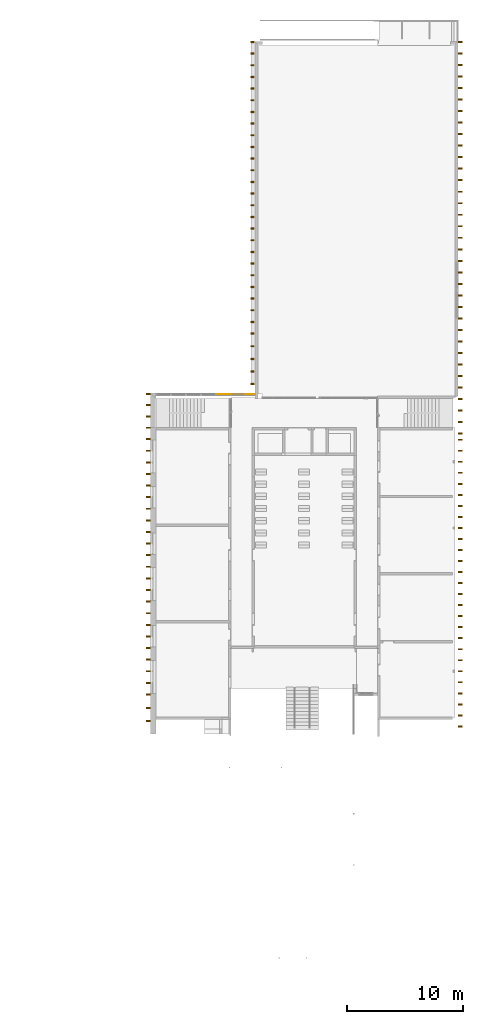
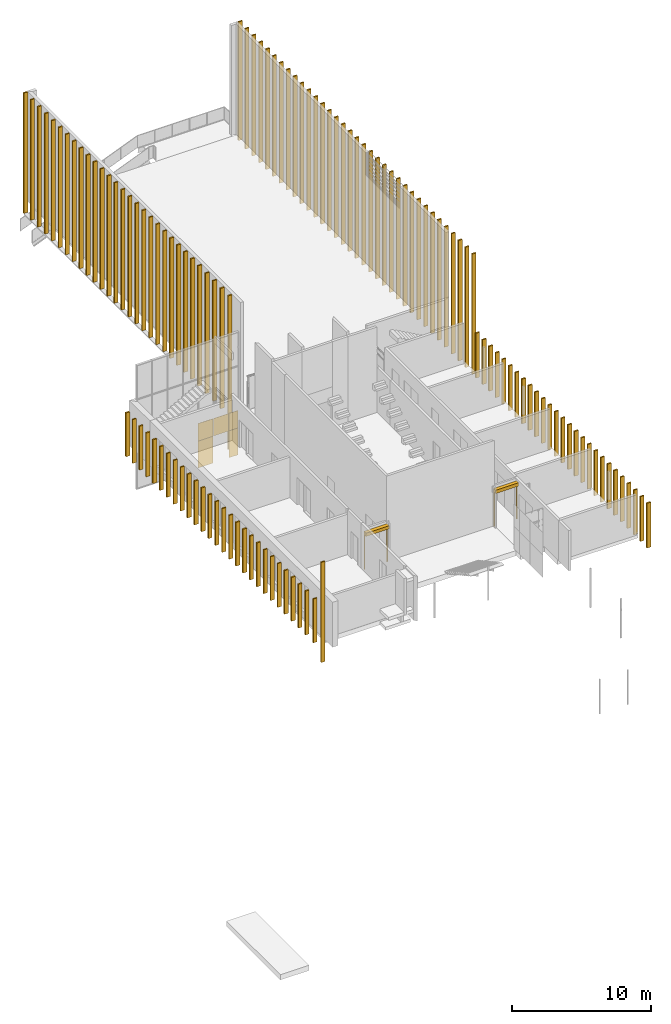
# One storey, part 58 of 62: 121 coverings, 7 doors, 1 element without a shape of its own.
"""IFC2X3 building model written with IfcOpenShell, lengths in millimetres."""

from ifc_helpers import new_model, entity, si_unit, converted_unit, derived_unit, money_unit, direction, frame, origin_with_axes, origin_2d_with_axis, place, context, subcontext, project, spatial, polyline, rectangle, outline, extrude, faceted_brep, source, transform, mapped, material, type_object, element, aggregate, save


model = new_model("IFC2X3")

# Units and contexts
model_context = context("Model", 3, precision=0.01, world=origin_with_axes(), true_north=direction((0.0, 1.0)))
body_context = subcontext(model_context, "Body", "Model", "MODEL_VIEW")
ifc_project = project(units=[si_unit("LENGTHUNIT", "METRE", prefix="MILLI"), si_unit("AREAUNIT", "SQUARE_METRE"), si_unit("VOLUMEUNIT", "CUBIC_METRE"), converted_unit("PLANEANGLEUNIT", "DEGREE", entity("IfcPlaneAngleMeasure", 0.0174532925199), si_unit("PLANEANGLEUNIT", "RADIAN"), dimensions=[0, 0, 0, 0, 0, 0, 0]), si_unit("SOLIDANGLEUNIT", "STERADIAN"), money_unit("EUR"), converted_unit("TIMEUNIT", "Year", entity("IfcTimeMeasure", 31556926.0), si_unit("TIMEUNIT", "SECOND"), dimensions=[0, 0, 1, 0, 0, 0, 0]), si_unit("MASSUNIT", "GRAM", prefix="KILO"), si_unit("THERMODYNAMICTEMPERATUREUNIT", "DEGREE_CELSIUS"), si_unit("LUMINOUSINTENSITYUNIT", "LUMEN"), si_unit("ENERGYUNIT", "JOULE", prefix="MEGA"), derived_unit("THERMALCONDUCTANCEUNIT", [(si_unit("POWERUNIT", "WATT"), 1), (si_unit("LENGTHUNIT", "METRE"), -1), (si_unit("THERMODYNAMICTEMPERATUREUNIT", "KELVIN"), -1)]), derived_unit("SPECIFICHEATCAPACITYUNIT", [(si_unit("ENERGYUNIT", "JOULE"), 1), (si_unit("MASSUNIT", "GRAM", prefix="KILO"), -1), (si_unit("THERMODYNAMICTEMPERATUREUNIT", "KELVIN"), -1)]), derived_unit("MASSDENSITYUNIT", [(si_unit("MASSUNIT", "GRAM", prefix="KILO"), 1), (si_unit("VOLUMEUNIT", "CUBIC_METRE"), -1)])], contexts=[model_context])

# Site, building, storey
site_placement = place(None, origin_with_axes())
site = spatial("IfcSite", under=ifc_project, at=site_placement, Name="Puškini 31, Narva", CompositionType="ELEMENT")
building_placement = place(site_placement, origin_with_axes())
building = spatial("IfcBuilding", under=site, at=building_placement, Name="Narva Riigigümnaasium", CompositionType="ELEMENT")
storey_placement = place(building_placement, frame((0.0, 0.0, 660.0), z_axis=(0.0, 0.0, 1.0), x_axis=(1.0, 0.0, 0.0)))
storey = spatial("IfcBuildingStorey", under=building, at=storey_placement, Name="2.korrus +0.66", CompositionType="ELEMENT", Elevation=660.0)

# Doors
ifc_material_1 = material(Name="ET-05_Teras")
door_style_1 = type_object("IfcDoorStyle", Name="TTK-8", ConstructionType="NOTDEFINED", OperationType="NOTDEFINED", ParameterTakesPrecedence=False, Sizeable=False)
shared_shape = source(origin_with_axes(), body_context, "Body", "Brep", [
    faceted_brep([(1959.99988526, 295.0, 0.0), (1879.99988526, 295.0, 0.0), (1879.99988526, 295.0, 3325.0), (1959.99988526, 295.0, 3325.0), (1959.99988526, 234.8205699, 0.0), (1879.99988526, 234.8205699, 0.0), (1879.99988526, 234.8205699, 3325.0), (1959.99988526, 234.8205699, 3325.0)], [[[0, 1, 2, 3]], [[0, 4, 5, 1]], [[1, 5, 6, 2]], [[3, 2, 6, 7]], [[4, 0, 3, 7]], [[5, 4, 7, 6]]]),
    faceted_brep([(80.0, 295.0, 0.0), (0.0, 295.0, 0.0), (0.0, 295.0, 3325.0), (80.0, 295.0, 3325.0), (80.0, 234.8205699, 0.0), (0.0, 234.8205699, 0.0), (0.0, 234.8205699, 3325.0), (80.0, 234.8205699, 3325.0)], [[[0, 1, 2, 3]], [[0, 4, 5, 1]], [[1, 5, 6, 2]], [[3, 2, 6, 7]], [[4, 0, 3, 7]], [[5, 4, 7, 6]]]),
    faceted_brep([(1959.99988526, 295.0, 3035.0), (0.000114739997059, 295.0, 3035.0), (0.000114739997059, 295.0, 3325.0), (1959.99988526, 295.0, 3325.0), (1959.99988526, 0.0, 3035.0), (0.000114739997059, 0.0, 3035.0), (0.000114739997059, 0.0, 3325.0), (1959.99988526, 0.0, 3325.0)], [[[0, 1, 2, 3]], [[0, 4, 5, 1]], [[1, 5, 6, 2]], [[3, 2, 6, 7]], [[4, 0, 3, 7]], [[5, 4, 7, 6]]]),
])
for number, where, z_axis, x_axis in (
    (1, (45620.0001075, 202005.000012, 0.0), (0.0, 0.0, 1.0), (1.0, 0.0, 0.0)),
    (2, (34819.9997363, 202005.000012, 0.0), (0.0, 0.0, 1.0), (1.0, 0.0, 0.0)),
):
    element("IfcDoor", number, at=place(storey_placement, frame(where, z_axis=z_axis, x_axis=x_axis)), inside=storey, type_object=door_style_1, material=ifc_material_1, Name="Tuletõkkekardin", ObjectType="DOOR", context=body_context, shape_type="MappedRepresentation", body=[
        mapped(shared_shape, transform((0.0, 0.0, 0.0))),
    ])

# Curtain wall, doors
curtain_wall_type = type_object("IfcCurtainWallType", Name="Curtain Wall Type", PredefinedType="NOTDEFINED")
curtain_wall_placement = place(storey_placement, frame((29287.8078111, 224154.987122, -3960.0), z_axis=(0.0, 0.0, 1.0), x_axis=(1.0, 0.0, 0.0)))
curtain_wall = element("IfcCurtainWall", 3, at=curtain_wall_placement, inside=storey, type_object=curtain_wall_type, Name="G-KLF-05")
ifc_material_2 = material(Name="VKR-05_Klaas")
door_style_2 = type_object("IfcDoorStyle", Name="1268 x 1470 x 20", ConstructionType="NOTDEFINED", OperationType="NOTDEFINED", ParameterTakesPrecedence=False, Sizeable=False)
door_1_placement = place(curtain_wall_placement, frame((5164.70988361, 0.0, 2937.77804284), z_axis=(0.0, 0.0, 1.0), x_axis=(1.0, 0.0, 0.0)))
door_1 = element("IfcDoor", 4, at=door_1_placement, type_object=door_style_2, material=ifc_material_2, Name="G-KLF-05-VU-01", ObjectType="DOOR", context=body_context, shape_type="SweptSolid", body=[
    extrude(outline(polyline([(-844.868888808, -1012.22194823), (423.267720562, -1012.22194823), (423.267720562, 527.778032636), (408.267718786, 527.778032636), (408.267718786, 537.778018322), (-844.868888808, 537.775693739), (-844.868888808, -1012.22194823)])), frame((0.0, -9.99999999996, 0.0), z_axis=(0.0, 1.0, 0.0), x_axis=(1.0, 0.0, 0.0)), (0.0, 0.0, 1.0), 20.0),
])
door_style_3 = type_object("IfcDoorStyle", Name="3 x 1470 x 20", ConstructionType="NOTDEFINED", OperationType="NOTDEFINED", ParameterTakesPrecedence=False, Sizeable=False)
door_2_placement = place(curtain_wall_placement, frame((6310.70376283, 0.0, 2937.77777834), z_axis=(0.0, 0.0, 1.0), x_axis=(1.0, 0.0, 0.0)))
door_2 = element("IfcDoor", 5, at=door_2_placement, type_object=door_style_3, material=ifc_material_2, Name="RF PEAPANEEL-803", ObjectType="DOOR", context=body_context, shape_type="SweptSolid", body=[
    extrude(outline(polyline([(-702.72615565, -1012.22221273), (565.441603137, -1012.22221273), (565.441603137, 527.777768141), (-702.72615565, 527.777768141), (-702.72615565, -1012.22221273)])), frame((0.0, -9.99999999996, 0.0), z_axis=(0.0, 1.0, 0.0), x_axis=(1.0, 0.0, 0.0)), (0.0, 0.0, 1.0), 20.0),
])
door_style_4 = type_object("IfcDoorStyle", Name="34 x 1470 x 20", ConstructionType="NOTDEFINED", OperationType="NOTDEFINED", ParameterTakesPrecedence=False, Sizeable=False)
door_3_placement = place(curtain_wall_placement, frame((7321.34599773, 0.0, 2937.77777834), z_axis=(0.0, 0.0, 1.0), x_axis=(1.0, 0.0, 0.0)))
door_3 = element("IfcDoor", 6, at=door_3_placement, type_object=door_style_4, material=ifc_material_2, Name="G-KLF-05-VU-01", ObjectType="DOOR", context=body_context, shape_type="SweptSolid", body=[
    extrude(outline(polyline([(-425.200635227, -1012.22221273), (335.84633862, -1012.22221273), (335.84633862, 537.777777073), (-410.200633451, 537.777777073), (-410.200633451, 527.777768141), (-425.200611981, 527.777768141), (-425.200635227, -1012.22221273)])), frame((0.0, -9.99999999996, 0.0), z_axis=(0.0, 1.0, 0.0), x_axis=(1.0, 0.0, 0.0)), (0.0, 0.0, 1.0), 20.0),
])
door_style_5 = type_object("IfcDoorStyle", Name="34 x 2365 x 20", ConstructionType="NOTDEFINED", OperationType="NOTDEFINED", ParameterTakesPrecedence=False, Sizeable=False)
door_4_placement = place(curtain_wall_placement, frame((7330.53946938, 0.0, 1371.42857215), z_axis=(0.0, 0.0, 1.0), x_axis=(1.0, 0.0, 0.0)))
door_4 = element("IfcDoor", 7, at=door_4_placement, type_object=door_style_5, material=ifc_material_2, Name="G-KLF-05-VU-01", ObjectType="DOOR", context=body_context, shape_type="SweptSolid", body=[
    extrude(outline(polyline([(-419.394093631, -1028.57142911), (326.652863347, -1028.57142911), (326.652863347, 1336.42857213), (-434.394093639, 1336.42857213), (-434.394093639, -1018.57142911), (-419.394093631, -1018.57142911), (-419.394093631, -1028.57142911)])), frame((0.0, -9.99999999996, 0.0), z_axis=(0.0, 1.0, 0.0), x_axis=(1.0, 0.0, 0.0)), (0.0, 0.0, 1.0), 20.0),
])
door_style_6 = type_object("IfcDoorStyle", Name="1253 x 10 x 20", ConstructionType="NOTDEFINED", OperationType="NOTDEFINED", ParameterTakesPrecedence=False, Sizeable=False)
door_5_placement = place(curtain_wall_placement, frame((5271.57238345, 0.0, 1500.00029835), z_axis=(0.0, 0.0, 1.0), x_axis=(1.0, 0.0, 0.0)))
door_5 = element("IfcDoor", 8, at=door_5_placement, type_object=door_style_6, material=ifc_material_2, Name="G-KLF-05-VU-01", ObjectType="DOOR", context=body_context, shape_type="SweptSolid", body=[
    extrude(outline(polyline([(-951.731393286, -900.002035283), (301.405206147, -899.999710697), (301.405206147, -889.999700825), (316.420777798, -889.999700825), (316.420777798, 1465.00029956), (-951.731393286, 1465.00029956), (-951.731393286, -900.002035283)])), frame((0.0, -9.99999999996, 0.0), z_axis=(0.0, 1.0, 0.0), x_axis=(1.0, 0.0, 0.0)), (0.0, 0.0, 1.0), 20.0),
])
aggregate(curtain_wall, [door_1, door_2, door_3, door_4, door_5])

# Coverings
ifc_material_3 = material(Name="Puitroov")
covering_type = type_object("IfcCoveringType", Name="Puitroov 120 x 320", PredefinedType="NOTDEFINED")
covering_1_placement = place(storey_placement, frame((54643.000001, 254508.805854, -760.0), z_axis=(0.0, 0.0, 1.0), x_axis=(0.0, 1.0, 0.0)))
element("IfcCovering", 9, at=covering_1_placement, inside=storey, type_object=covering_type, material=ifc_material_3, Name="Lamell", PredefinedType="NOTDEFINED", context=body_context, shape_type="SweptSolid", body=[
    extrude(rectangle(XDim=120.0, YDim=320.0, at=origin_2d_with_axis()), origin_with_axes(), (0.0, 0.0, 1.0), 10450.0),
])
for number, where, z_axis, x_axis in (
    (10, (54643.000001, 253526.259118, -920.0), (0.0, 0.0, 1.0), (0.0, 1.0, 0.0)),
    (11, (54643.000001, 252533.712381, -920.0), (0.0, 0.0, 1.0), (0.0, 1.0, 0.0)),
    (12, (54643.000001, 251541.165644, -920.0), (0.0, 0.0, 1.0), (0.0, 1.0, 0.0)),
    (13, (54643.000001, 250548.618907, -920.0), (0.0, 0.0, 1.0), (0.0, 1.0, 0.0)),
    (14, (54643.000001, 249556.07217, -920.0), (0.0, 0.0, 1.0), (0.0, 1.0, 0.0)),
    (15, (54643.000001, 248563.525433, -920.0), (0.0, 0.0, 1.0), (0.0, 1.0, 0.0)),
    (16, (54643.000001, 247570.978696, -920.0), (0.0, 0.0, 1.0), (0.0, 1.0, 0.0)),
    (17, (54643.000001, 246578.43196, -920.0), (0.0, 0.0, 1.0), (0.0, 1.0, 0.0)),
    (18, (54643.000001, 245585.885223, -920.0), (0.0, 0.0, 1.0), (0.0, 1.0, 0.0)),
    (19, (54643.000001, 244593.338486, -920.0), (0.0, 0.0, 1.0), (0.0, 1.0, 0.0)),
    (20, (54643.000001, 243600.791749, -920.0), (0.0, 0.0, 1.0), (0.0, 1.0, 0.0)),
    (21, (54643.000001, 242608.245012, -920.0), (0.0, 0.0, 1.0), (0.0, 1.0, 0.0)),
    (22, (54643.000001, 241615.698275, -920.0), (0.0, 0.0, 1.0), (0.0, 1.0, 0.0)),
    (23, (54643.000001, 240623.151539, -920.0), (0.0, 0.0, 1.0), (0.0, 1.0, 0.0)),
    (24, (54643.000001, 239630.604802, -920.0), (0.0, 0.0, 1.0), (0.0, 1.0, 0.0)),
    (25, (54643.000001, 238638.058065, -920.0), (0.0, 0.0, 1.0), (0.0, 1.0, 0.0)),
    (26, (54643.000001, 237645.511328, -920.0), (0.0, 0.0, 1.0), (0.0, 1.0, 0.0)),
    (27, (54643.000001, 236652.964591, -920.0), (0.0, 0.0, 1.0), (0.0, 1.0, 0.0)),
    (28, (54643.000001, 235660.417854, -920.0), (0.0, 0.0, 1.0), (0.0, 1.0, 0.0)),
    (29, (54643.000001, 234667.871117, -920.0), (0.0, 0.0, 1.0), (0.0, 1.0, 0.0)),
    (30, (54643.000001, 233675.324381, -920.0), (0.0, 0.0, 1.0), (0.0, 1.0, 0.0)),
    (31, (54643.000001, 232682.777644, -920.0), (0.0, 0.0, 1.0), (0.0, 1.0, 0.0)),
    (32, (54643.000001, 231690.230907, -920.0), (0.0, 0.0, 1.0), (0.0, 1.0, 0.0)),
    (33, (54643.000001, 230697.68417, -920.0), (0.0, 0.0, 1.0), (0.0, 1.0, 0.0)),
    (34, (54643.000001, 229705.137433, -920.0), (0.0, 0.0, 1.0), (0.0, 1.0, 0.0)),
    (35, (54643.000001, 228712.590696, -920.0), (0.0, 0.0, 1.0), (0.0, 1.0, 0.0)),
    (36, (54643.000001, 227720.043959, -920.0), (0.0, 0.0, 1.0), (0.0, 1.0, 0.0)),
    (37, (54643.000001, 226727.497223, -920.0), (0.0, 0.0, 1.0), (0.0, 1.0, 0.0)),
    (38, (54643.000001, 225734.950486, -920.0), (0.0, 0.0, 1.0), (0.0, 1.0, 0.0)),
    (39, (54643.000001, 224742.403749, -920.0), (0.0, 0.0, 1.0), (0.0, 1.0, 0.0)),
    (40, (54643.000001, 223749.857012, -920.0), (0.0, 0.0, 1.0), (0.0, 1.0, 0.0)),
    (41, (54643.000001, 222757.310275, -920.0), (0.0, 0.0, 1.0), (0.0, 1.0, 0.0)),
    (42, (54643.000001, 221764.763538, -920.0), (0.0, 0.0, 1.0), (0.0, 1.0, 0.0)),
    (43, (54643.000001, 220782.216801, -920.0), (0.0, 0.0, 1.0), (0.0, 1.0, 0.0)),
):
    element("IfcCovering", number, at=place(storey_placement, frame(where, z_axis=z_axis, x_axis=x_axis)), inside=storey, type_object=covering_type, material=ifc_material_3, Name="Lamell", PredefinedType="NOTDEFINED", context=body_context, shape_type="SweptSolid", body=[
        extrude(rectangle(XDim=120.0, YDim=320.0, at=origin_2d_with_axis()), origin_with_axes(), (0.0, 0.0, 1.0), 10610.0),
    ])
for number, where, z_axis, x_axis in (
    (44, (54643.000001, 200300.000001, -920.0), (0.0, 0.0, 1.0), (0.0, 1.0, 0.0)),
    (45, (54643.000001, 202200.000001, -920.0), (0.0, 0.0, 1.0), (0.0, 1.0, 0.0)),
    (46, (54643.000001, 201250.000001, -920.0), (0.0, 0.0, 1.0), (0.0, 1.0, 0.0)),
    (47, (54643.000001, 199350.000001, -920.0), (0.0, 0.0, 1.0), (0.0, 1.0, 0.0)),
    (48, (54643.000001, 198400.000001, -920.0), (0.0, 0.0, 1.0), (0.0, 1.0, 0.0)),
    (49, (54643.000001, 197450.000001, -920.0), (0.0, 0.0, 1.0), (0.0, 1.0, 0.0)),
    (50, (54643.000001, 203150.000001, -920.0), (0.0, 0.0, 1.0), (0.0, 1.0, 0.0)),
    (51, (54643.000001, 204100.000001, -920.0), (0.0, 0.0, 1.0), (0.0, 1.0, 0.0)),
    (52, (54643.000001, 205050.000001, -920.0), (0.0, 0.0, 1.0), (0.0, 1.0, 0.0)),
    (53, (54643.000001, 206000.000001, -920.0), (0.0, 0.0, 1.0), (0.0, 1.0, 0.0)),
    (54, (54643.000001, 206950.000001, -920.0), (0.0, 0.0, 1.0), (0.0, 1.0, 0.0)),
    (55, (54643.000001, 207900.000001, -920.0), (0.0, 0.0, 1.0), (0.0, 1.0, 0.0)),
    (56, (54643.000001, 208850.000001, -920.0), (0.0, 0.0, 1.0), (0.0, 1.0, 0.0)),
    (57, (54643.000001, 209800.000001, -920.0), (0.0, 0.0, 1.0), (0.0, 1.0, 0.0)),
    (58, (54643.000001, 210750.000001, -920.0), (0.0, 0.0, 1.0), (0.0, 1.0, 0.0)),
    (59, (54643.000001, 211700.000001, -920.0), (0.0, 0.0, 1.0), (0.0, 1.0, 0.0)),
    (60, (54643.000001, 212650.000001, -920.0), (0.0, 0.0, 1.0), (0.0, 1.0, 0.0)),
    (61, (54643.000001, 213600.000001, -920.0), (0.0, 0.0, 1.0), (0.0, 1.0, 0.0)),
    (62, (54643.000001, 214550.000001, -920.0), (0.0, 0.0, 1.0), (0.0, 1.0, 0.0)),
    (63, (54643.000001, 215500.000001, -920.0), (0.0, 0.0, 1.0), (0.0, 1.0, 0.0)),
    (64, (54643.000001, 216450.000001, -920.0), (0.0, 0.0, 1.0), (0.0, 1.0, 0.0)),
    (65, (54643.000001, 217400.000001, -920.0), (0.0, 0.0, 1.0), (0.0, 1.0, 0.0)),
    (66, (54643.000001, 218350.000001, -920.0), (0.0, 0.0, 1.0), (0.0, 1.0, 0.0)),
    (67, (54643.000001, 219300.000001, -920.0), (0.0, 0.0, 1.0), (0.0, 1.0, 0.0)),
    (68, (54643.000001, 196500.000001, -920.0), (0.0, 0.0, 1.0), (0.0, 1.0, 0.0)),
    (69, (54643.000001, 195550.000001, -920.0), (0.0, 0.0, 1.0), (0.0, 1.0, 0.0)),
):
    element("IfcCovering", number, at=place(storey_placement, frame(where, z_axis=z_axis, x_axis=x_axis)), inside=storey, type_object=covering_type, material=ifc_material_3, Name="Lamell", PredefinedType="NOTDEFINED", context=body_context, shape_type="SweptSolid", body=[
        extrude(rectangle(XDim=120.0, YDim=320.0, at=origin_2d_with_axis()), origin_with_axes(), (0.0, 0.0, 1.0), 3950.0),
    ])
covering_2_placement = place(storey_placement, frame((36757.0, 225036.000005, -3860.0), z_axis=(0.0, 0.0, 1.0), x_axis=(0.0, 1.0, 0.0)))
element("IfcCovering", 70, at=covering_2_placement, inside=storey, type_object=covering_type, material=ifc_material_3, Name="Lamell", PredefinedType="NOTDEFINED", context=body_context, shape_type="SweptSolid", body=[
    extrude(rectangle(XDim=120.0, YDim=320.0, at=origin_2d_with_axis()), origin_with_axes(), (0.0, 0.0, 1.0), 13550.0),
])
covering_3_placement = place(storey_placement, frame((54643.000001, 220250.000001, -920.0), z_axis=(0.0, 0.0, 1.0), x_axis=(0.0, 1.0, 0.0)))
element("IfcCovering", 71, at=covering_3_placement, inside=storey, type_object=covering_type, material=ifc_material_3, Name="Lamell", PredefinedType="NOTDEFINED", context=body_context, shape_type="SweptSolid", body=[
    extrude(rectangle(XDim=120.0, YDim=320.0, at=origin_2d_with_axis()), origin_with_axes(), (0.0, 0.0, 1.0), 3950.0),
])
for number, where, z_axis, x_axis in (
    (72, (36757.0, 254506.805854, -920.0), (0.0, 0.0, 1.0), (0.0, 1.0, 0.0)),
    (73, (36757.0, 253513.805854, -920.0), (0.0, 0.0, 1.0), (0.0, 1.0, 0.0)),
    (74, (36757.0, 252508.805854, -920.0), (0.0, 0.0, 1.0), (0.0, 1.0, 0.0)),
    (75, (36757.0, 251503.805854, -920.0), (0.0, 0.0, 1.0), (0.0, 1.0, 0.0)),
    (76, (36757.0, 250498.805854, -920.0), (0.0, 0.0, 1.0), (0.0, 1.0, 0.0)),
    (77, (36757.0, 249493.805854, -920.0), (0.0, 0.0, 1.0), (0.0, 1.0, 0.0)),
    (78, (36757.0, 248488.805854, -920.0), (0.0, 0.0, 1.0), (0.0, 1.0, 0.0)),
    (79, (36757.0, 247483.805854, -920.0), (0.0, 0.0, 1.0), (0.0, 1.0, 0.0)),
    (80, (36757.0, 246478.805854, -920.0), (0.0, 0.0, 1.0), (0.0, 1.0, 0.0)),
    (81, (36757.0, 245473.805854, -920.0), (0.0, 0.0, 1.0), (0.0, 1.0, 0.0)),
    (82, (36757.0, 244468.805854, -920.0), (0.0, 0.0, 1.0), (0.0, 1.0, 0.0)),
    (83, (36757.0, 243463.805854, -920.0), (0.0, 0.0, 1.0), (0.0, 1.0, 0.0)),
    (84, (36757.0, 242458.805854, -920.0), (0.0, 0.0, 1.0), (0.0, 1.0, 0.0)),
    (85, (36757.0, 241453.805854, -920.0), (0.0, 0.0, 1.0), (0.0, 1.0, 0.0)),
    (86, (36757.0, 240448.805854, -920.0), (0.0, 0.0, 1.0), (0.0, 1.0, 0.0)),
    (87, (36757.0, 239443.805854, -920.0), (0.0, 0.0, 1.0), (0.0, 1.0, 0.0)),
    (88, (36757.0, 238438.805854, -920.0), (0.0, 0.0, 1.0), (0.0, 1.0, 0.0)),
    (89, (36757.0, 237433.805854, -920.0), (0.0, 0.0, 1.0), (0.0, 1.0, 0.0)),
    (90, (36757.0, 236428.805854, -920.0), (0.0, 0.0, 1.0), (0.0, 1.0, 0.0)),
    (91, (36757.0, 235423.805854, -920.0), (0.0, 0.0, 1.0), (0.0, 1.0, 0.0)),
    (92, (36757.0, 234418.805854, -920.0), (0.0, 0.0, 1.0), (0.0, 1.0, 0.0)),
    (93, (36757.0, 233413.805854, -920.0), (0.0, 0.0, 1.0), (0.0, 1.0, 0.0)),
    (94, (36757.0, 232408.805854, -920.0), (0.0, 0.0, 1.0), (0.0, 1.0, 0.0)),
    (95, (36757.0, 231403.805854, -920.0), (0.0, 0.0, 1.0), (0.0, 1.0, 0.0)),
    (96, (36757.0, 230398.805854, -920.0), (0.0, 0.0, 1.0), (0.0, 1.0, 0.0)),
    (97, (36757.0, 229393.805854, -920.0), (0.0, 0.0, 1.0), (0.0, 1.0, 0.0)),
):
    element("IfcCovering", number, at=place(storey_placement, frame(where, z_axis=z_axis, x_axis=x_axis)), inside=storey, type_object=covering_type, material=ifc_material_3, Name="Lamell", PredefinedType="NOTDEFINED", context=body_context, shape_type="SweptSolid", body=[
        extrude(rectangle(XDim=120.0, YDim=320.0, at=origin_2d_with_axis()), origin_with_axes(), (0.0, 0.0, 1.0), 10610.0),
    ])
covering_4_placement = place(storey_placement, frame((27756.2973688, 195999.991199, -1858.46323652), z_axis=(0.0, 0.0, 1.0), x_axis=(0.0, 1.0, 0.0)))
element("IfcCovering", 98, at=covering_4_placement, inside=storey, type_object=covering_type, material=ifc_material_3, Name="Lamell", PredefinedType="NOTDEFINED", context=body_context, shape_type="SweptSolid", body=[
    extrude(rectangle(XDim=120.0, YDim=320.0, at=origin_2d_with_axis()), origin_with_axes(), (0.0, 0.0, 1.0), 8818.46323652),
])
for number, where, z_axis, x_axis in (
    (99, (27756.2257991, 220299.991647, -830.0), (0.0, 0.0, 1.0), (0.0, 1.0, 0.0)),
    (100, (27756.2257991, 219299.991647, -830.0), (0.0, 0.0, 1.0), (0.0, 1.0, 0.0)),
    (101, (27756.2257991, 218299.991647, -830.0), (0.0, 0.0, 1.0), (0.0, 1.0, 0.0)),
    (102, (27756.2257991, 217299.991647, -830.0), (0.0, 0.0, 1.0), (0.0, 1.0, 0.0)),
    (103, (27756.2257991, 216299.991647, -830.0), (0.0, 0.0, 1.0), (0.0, 1.0, 0.0)),
    (104, (27756.2257991, 215299.991647, -830.0), (0.0, 0.0, 1.0), (0.0, 1.0, 0.0)),
    (105, (27756.2257991, 214299.991647, -830.0), (0.0, 0.0, 1.0), (0.0, 1.0, 0.0)),
    (106, (27756.2257991, 213299.991647, -830.0), (0.0, 0.0, 1.0), (0.0, 1.0, 0.0)),
    (107, (27756.2257991, 212299.991647, -830.0), (0.0, 0.0, 1.0), (0.0, 1.0, 0.0)),
    (108, (27756.2257991, 211299.991647, -830.0), (0.0, 0.0, 1.0), (0.0, 1.0, 0.0)),
    (109, (27756.2257991, 210299.991647, -830.0), (0.0, 0.0, 1.0), (0.0, 1.0, 0.0)),
    (110, (27756.2257991, 209299.991647, -830.0), (0.0, 0.0, 1.0), (0.0, 1.0, 0.0)),
    (111, (27756.2257991, 208299.991647, -830.0), (0.0, 0.0, 1.0), (0.0, 1.0, 0.0)),
    (112, (27756.2257991, 207299.991647, -830.0), (0.0, 0.0, 1.0), (0.0, 1.0, 0.0)),
    (113, (27756.2257991, 206299.991647, -830.0), (0.0, 0.0, 1.0), (0.0, 1.0, 0.0)),
    (114, (27756.2257991, 205299.991647, -830.0), (0.0, 0.0, 1.0), (0.0, 1.0, 0.0)),
    (115, (27756.2257991, 204299.991647, -830.0), (0.0, 0.0, 1.0), (0.0, 1.0, 0.0)),
    (116, (27756.2257991, 203299.991647, -830.0), (0.0, 0.0, 1.0), (0.0, 1.0, 0.0)),
    (117, (27756.2257991, 202299.991647, -830.0), (0.0, 0.0, 1.0), (0.0, 1.0, 0.0)),
    (118, (27756.2257991, 201299.991647, -830.0), (0.0, 0.0, 1.0), (0.0, 1.0, 0.0)),
    (119, (27756.2257991, 200299.991647, -830.0), (0.0, 0.0, 1.0), (0.0, 1.0, 0.0)),
    (120, (27756.2257991, 199299.991647, -830.0), (0.0, 0.0, 1.0), (0.0, 1.0, 0.0)),
    (121, (27756.2257991, 198299.991647, -830.0), (0.0, 0.0, 1.0), (0.0, 1.0, 0.0)),
    (122, (27756.2257991, 221277.488576, -830.0), (0.0, 0.0, 1.0), (0.0, 1.0, 0.0)),
    (123, (27756.2257991, 222254.985506, -830.0), (0.0, 0.0, 1.0), (0.0, 1.0, 0.0)),
    (124, (27756.2257991, 223232.482436, -830.0), (0.0, 0.0, 1.0), (0.0, 1.0, 0.0)),
    (125, (27757.0401775, 224197.979425, -830.0), (0.0, 0.0, 1.0), (0.0, 1.0, 0.0)),
    (126, (27756.2257991, 197149.991423, -830.0), (0.0, 0.0, 1.0), (0.0, 1.0, 0.0)),
):
    element("IfcCovering", number, at=place(storey_placement, frame(where, z_axis=z_axis, x_axis=x_axis)), inside=storey, type_object=covering_type, material=ifc_material_3, Name="Lamell", PredefinedType="NOTDEFINED", context=body_context, shape_type="SweptSolid", body=[
        extrude(rectangle(XDim=120.0, YDim=320.0, at=origin_2d_with_axis()), origin_with_axes(), (0.0, 0.0, 1.0), 3860.0),
    ])
for number, where, z_axis, x_axis in (
    (127, (36757.0, 228304.354392, -920.0), (0.0, 0.0, 1.0), (0.0, 1.0, 0.0)),
    (128, (36757.0, 227214.90293, -920.0), (0.0, 0.0, 1.0), (0.0, 1.0, 0.0)),
    (129, (36757.0, 226125.451467, -920.0), (0.0, 0.0, 1.0), (0.0, 1.0, 0.0)),
):
    element("IfcCovering", number, at=place(storey_placement, frame(where, z_axis=z_axis, x_axis=x_axis)), inside=storey, type_object=covering_type, material=ifc_material_3, Name="Lamell", PredefinedType="NOTDEFINED", context=body_context, shape_type="SweptSolid", body=[
        extrude(rectangle(XDim=120.0, YDim=320.0, at=origin_2d_with_axis()), origin_with_axes(), (0.0, 0.0, 1.0), 10610.0),
    ])

save(model, "model.ifc")
